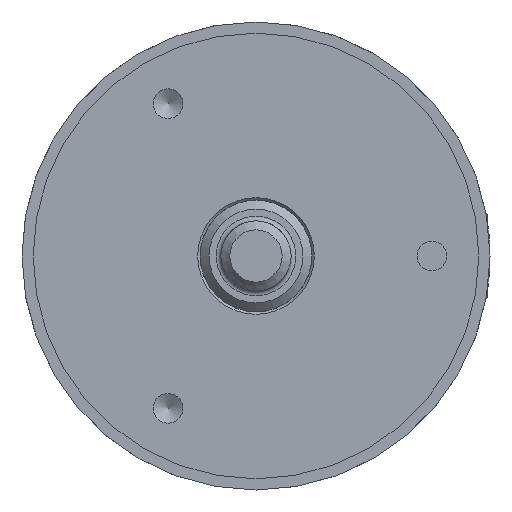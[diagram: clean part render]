
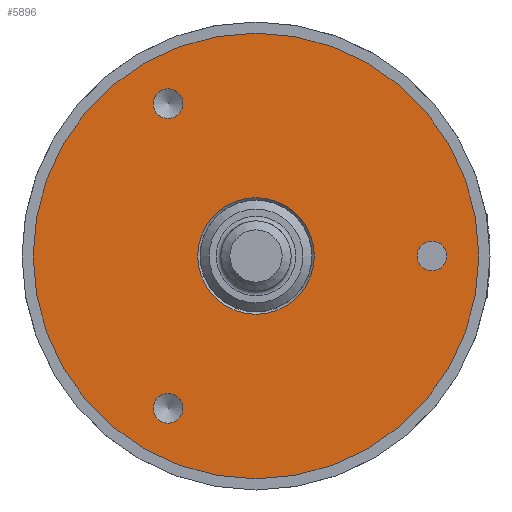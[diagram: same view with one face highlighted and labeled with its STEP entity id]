
A CAD part, left-side view. The second image highlights one B-rep face of the part: STEP entity #5896.
In plain terms, the highlighted planar face has unit normal (-1, 0, 0).
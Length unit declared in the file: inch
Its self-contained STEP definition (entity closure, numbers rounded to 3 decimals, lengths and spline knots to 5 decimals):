
#221=FACE_BOUND('',#1843,.T.);
#222=FACE_BOUND('',#1844,.T.);
#223=FACE_BOUND('',#1845,.T.);
#224=FACE_BOUND('',#1846,.T.);
#1398=PLANE('',#6285);
#1484=FACE_OUTER_BOUND('',#1842,.T.);
#1842=EDGE_LOOP('',(#4008));
#1843=EDGE_LOOP('',(#4009));
#1844=EDGE_LOOP('',(#4010));
#1845=EDGE_LOOP('',(#4011));
#1846=EDGE_LOOP('',(#4012));
#2209=CIRCLE('',#6259,0.04978);
#2211=CIRCLE('',#6263,0.04978);
#2213=CIRCLE('',#6267,0.04978);
#2222=CIRCLE('',#6284,0.7475);
#2223=CIRCLE('',#6286,0.1955);
#2333=VERTEX_POINT('',#7377);
#2336=VERTEX_POINT('',#7386);
#2339=VERTEX_POINT('',#7395);
#2348=VERTEX_POINT('',#7425);
#2349=VERTEX_POINT('',#7429);
#2984=EDGE_CURVE('',#2333,#2333,#2209,.T.);
#2988=EDGE_CURVE('',#2336,#2336,#2211,.T.);
#2992=EDGE_CURVE('',#2339,#2339,#2213,.T.);
#3005=EDGE_CURVE('',#2348,#2348,#2222,.T.);
#3007=EDGE_CURVE('',#2349,#2349,#2223,.T.);
#4008=ORIENTED_EDGE('',*,*,#3005,.T.);
#4009=ORIENTED_EDGE('',*,*,#2984,.T.);
#4010=ORIENTED_EDGE('',*,*,#2988,.T.);
#4011=ORIENTED_EDGE('',*,*,#2992,.T.);
#4012=ORIENTED_EDGE('',*,*,#3007,.F.);
#5896=ADVANCED_FACE('',(#1484,#221,#222,#223,#224),#1398,.T.);
#6259=AXIS2_PLACEMENT_3D('',#7378,#6560,#6561);
#6263=AXIS2_PLACEMENT_3D('',#7387,#6570,#6571);
#6267=AXIS2_PLACEMENT_3D('',#7396,#6580,#6581);
#6284=AXIS2_PLACEMENT_3D('',#7426,#6618,#6619);
#6285=AXIS2_PLACEMENT_3D('',#7428,#6621,#6622);
#6286=AXIS2_PLACEMENT_3D('',#7430,#6623,#6624);
#6560=DIRECTION('center_axis',(1.,0.,0.));
#6561=DIRECTION('ref_axis',(0.,-1.,0.));
#6570=DIRECTION('center_axis',(1.,0.,0.));
#6571=DIRECTION('ref_axis',(0.,-1.,0.));
#6580=DIRECTION('center_axis',(1.,0.,0.));
#6581=DIRECTION('ref_axis',(0.,-1.,0.));
#6618=DIRECTION('center_axis',(-1.,0.,0.));
#6619=DIRECTION('ref_axis',(0.,0.,1.));
#6621=DIRECTION('center_axis',(-1.,0.,0.));
#6622=DIRECTION('ref_axis',(0.,0.,1.));
#6623=DIRECTION('center_axis',(-1.,0.,0.));
#6624=DIRECTION('ref_axis',(0.,0.,1.));
#7377=CARTESIAN_POINT('',(0.,-0.54022,0.));
#7378=CARTESIAN_POINT('Origin',(0.,-0.59,0.));
#7386=CARTESIAN_POINT('',(0.,0.34478,0.51095));
#7387=CARTESIAN_POINT('Origin',(0.,0.295,0.51095));
#7395=CARTESIAN_POINT('',(0.,0.34478,-0.51095));
#7396=CARTESIAN_POINT('Origin',(0.,0.295,-0.51095));
#7425=CARTESIAN_POINT('',(0.,0.,-0.7475));
#7426=CARTESIAN_POINT('Origin',(0.,0.,0.));
#7428=CARTESIAN_POINT('Origin',(0.,0.,0.1955));
#7429=CARTESIAN_POINT('',(0.,0.,-0.1955));
#7430=CARTESIAN_POINT('Origin',(0.,0.,0.));
